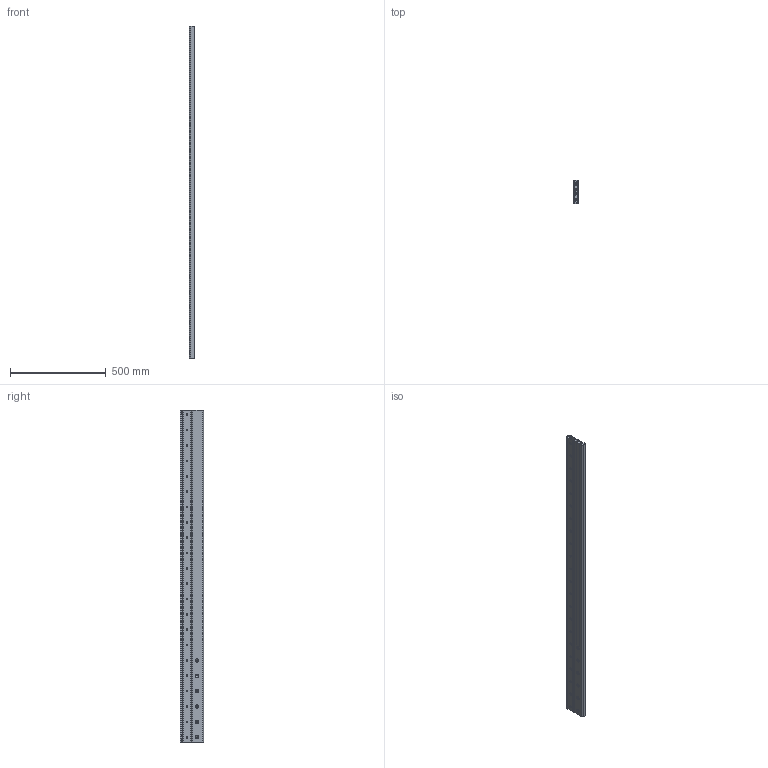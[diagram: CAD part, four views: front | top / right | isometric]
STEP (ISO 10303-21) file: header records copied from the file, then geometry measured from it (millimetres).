
FILE_DESCRIPTION(('STEP AP214'),'1');
FILE_NAME('rail_dss43-1730_00.stp','2017-04-17T04:00:06',('TraceParts'),('TraceParts S.A.'),'Spatial InterOp 3D',' ',' ');
FILE_SCHEMA(('automotive_design'));
Length unit declared in the file: millimetre
Products named in the file (3): rail_dss43-1730_00_1; rail_dss43-1730_00_2; rail_dss43-1730_00_3
Bounding box: 28 x 120 x 1730 mm (x, y, z)
Volume: 3065060 mm3; surface area: 1233228.1 mm2
Topology: 3 solids, 3 shells, 390 faces, 1034 edges, 660 vertices
Faces by surface type: cylinder 164, plane 138, cone 88
Entity records: 12415 total; most frequent: DIRECTION 2252, CARTESIAN_POINT 2087, ORIENTED_EDGE 2068, EDGE_CURVE 1034, AXIS2_PLACEMENT_3D 825, VERTEX_POINT 660, LINE 602, VECTOR 602
